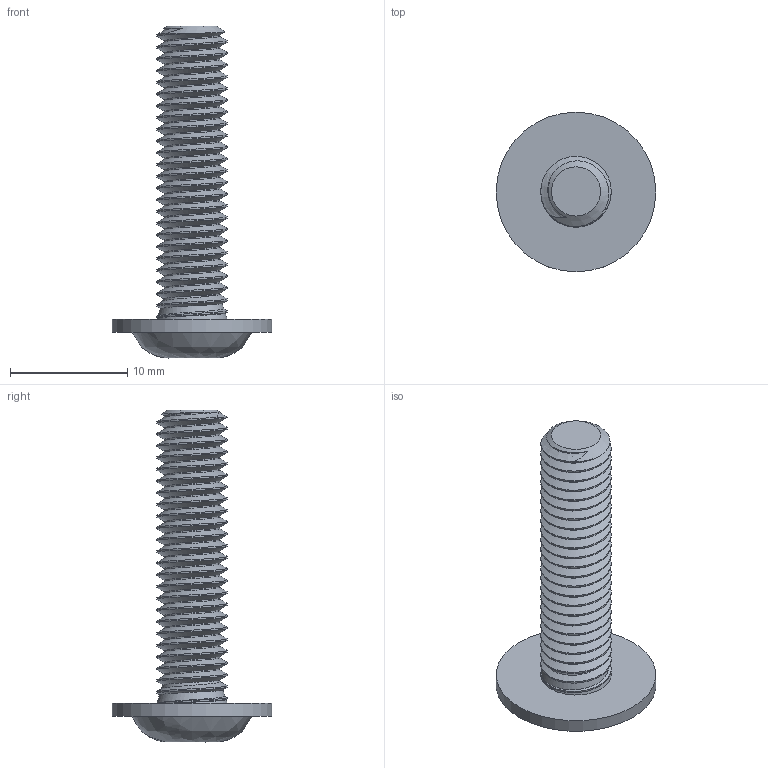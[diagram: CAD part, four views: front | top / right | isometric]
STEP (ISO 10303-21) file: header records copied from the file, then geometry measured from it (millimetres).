
FILE_DESCRIPTION((''),'2;1');
FILE_NAME('C:\Documents and Settings\Administrator\My Documents\Andys Backup Data\STEP LIBRARIES\MINITEC STEP LIBRARIES\FASTENING ELEMENTS\BUTTON HEAD FLANGE SCREWS\21.9966 M6X25 BUTTON HEAD FLANGE.stp','2010-12-03T13:48:28',('Administrator'),(''),'Autodesk Inventor 2009','Autodesk Inventor 2009','');
FILE_SCHEMA(('CONFIG_CONTROL_DESIGN'));
Length unit declared in the file: millimetre
Products named in the file (1): 21.9966 M6X25 BUTTON HEAD FLANGE
Bounding box: 13.6 x 13.6 x 28.29 mm (x, y, z)
Volume: 814.9 mm3; surface area: 1115.1 mm2
Topology: 1 solids, 1 shells, 24 faces, 257 edges, 237 vertices
Faces by surface type: plane 10, cone 8, bspline 3, cylinder 3
Full cylindrical faces by diameter (mm): 13.6 x1
Entity records: 4847 total; most frequent: CARTESIAN_POINT 3540, ORIENTED_EDGE 506, EDGE_CURVE 253, VERTEX_POINT 236, DIRECTION 86, AXIS2_PLACEMENT_3D 37, EDGE_LOOP 29, B_SPLINE_CURVE_WITH_KNOTS 26
